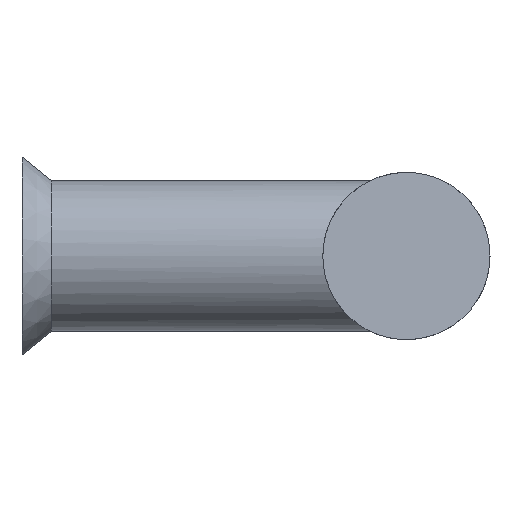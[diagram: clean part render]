
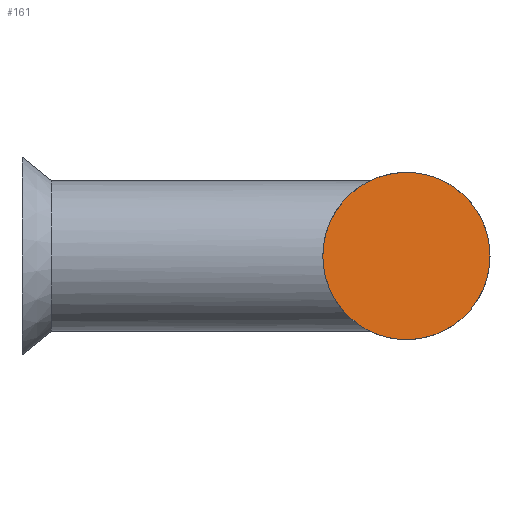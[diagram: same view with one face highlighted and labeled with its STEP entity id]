
A CAD part, left-side view. The second image highlights one B-rep face of the part: STEP entity #161.
In plain terms, the highlighted planar face has unit normal (-0.786, -0.618, 0).
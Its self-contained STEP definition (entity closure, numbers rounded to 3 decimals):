
#161 = ADVANCED_FACE( '', ( #436 ), #437, .F. );
#319 = VERTEX_POINT( '', #611 );
#337 = EDGE_CURVE( '', #387, #319, #633, .T. );
#355 = EDGE_CURVE( '', #319, #387, #652, .T. );
#387 = VERTEX_POINT( '', #689 );
#436 = FACE_OUTER_BOUND( '', #732, .T. );
#437 = PLANE( '', #733 );
#611 = CARTESIAN_POINT( '', ( -24.5, -18., 0. ) );
#633 = ELLIPSE( '', #1348, 6.358, 5. );
#652 = ELLIPSE( '', #1394, 6.358, 5. );
#689 = CARTESIAN_POINT( '', ( -16.644, -28., 0. ) );
#732 = EDGE_LOOP( '', ( #1581, #1582 ) );
#733 = AXIS2_PLACEMENT_3D( '', #1583, #1584, #1585 );
#1348 = AXIS2_PLACEMENT_3D( '', #1816, #1817, #1818 );
#1394 = AXIS2_PLACEMENT_3D( '', #1835, #1836, #1837 );
#1581 = ORIENTED_EDGE( '', *, *, #355, .F. );
#1582 = ORIENTED_EDGE( '', *, *, #337, .F. );
#1583 = CARTESIAN_POINT( '', ( -16.644, -28., 20. ) );
#1584 = DIRECTION( '', ( 0.786, 0.618, 0. ) );
#1585 = DIRECTION( '', ( 0.618, -0.786, 0. ) );
#1816 = CARTESIAN_POINT( '', ( -20.572, -23., 0. ) );
#1817 = DIRECTION( '', ( 0.786, 0.618, 0. ) );
#1818 = DIRECTION( '', ( 0.618, -0.786, 0. ) );
#1835 = CARTESIAN_POINT( '', ( -20.572, -23., 0. ) );
#1836 = DIRECTION( '', ( 0.786, 0.618, 0. ) );
#1837 = DIRECTION( '', ( 0.618, -0.786, 0. ) );
